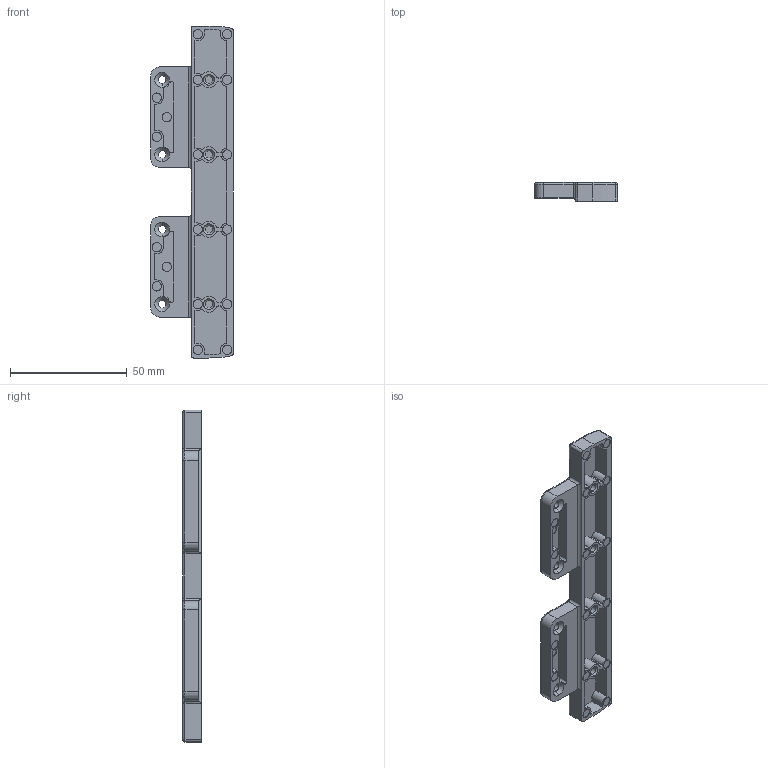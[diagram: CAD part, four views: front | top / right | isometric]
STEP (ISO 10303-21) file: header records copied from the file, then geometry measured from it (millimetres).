
FILE_DESCRIPTION (( 'STEP AP203' ), '1' );
FILE_NAME ('Aluminiumrahmenadapter_S-35_L-80_D2359040000~0.step', '2012-05-04T06:17:14', ( 'admin' ), ( 'Hewlett-Packard Company' ), 'SwSTEP 2.0', 'SolidWorks 2011', '' );
FILE_SCHEMA (( 'CONFIG_CONTROL_DESIGN' ));
Length unit declared in the file: millimetre
Products named in the file (1): Aluminiumrahmenadapter_S-35_L-80_D2359040000~0
Bounding box: 35.5 x 8 x 142 mm (x, y, z)
Volume: 17687.6 mm3; surface area: 14509.3 mm2
Topology: 1 solids, 1 shells, 283 faces, 710 edges, 454 vertices
Faces by surface type: cylinder 158, plane 95, cone 16, torus 10, sphere 4
Entity records: 8641 total; most frequent: DIRECTION 1610, CARTESIAN_POINT 1480, ORIENTED_EDGE 1412, EDGE_CURVE 706, AXIS2_PLACEMENT_3D 624, VERTEX_POINT 454, LINE 362, VECTOR 362
